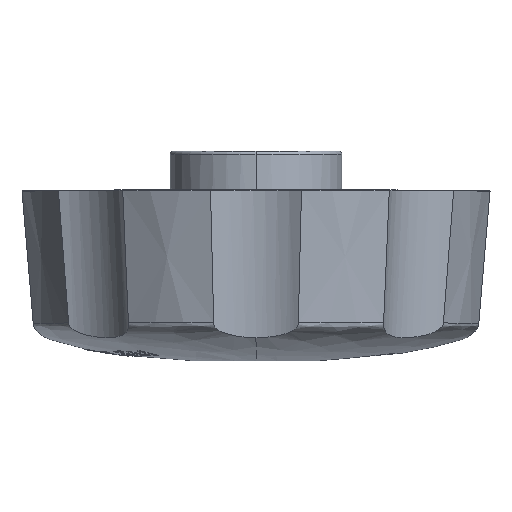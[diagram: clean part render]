
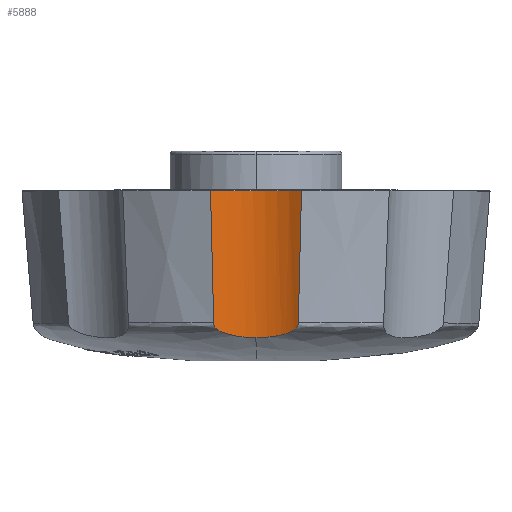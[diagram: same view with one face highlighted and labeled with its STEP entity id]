
A CAD part, top view. The second image highlights one B-rep face of the part: STEP entity #5888.
In plain terms, the highlighted cylindrical face has radius 10.5 mm (diameter 21 mm), a partial arc.
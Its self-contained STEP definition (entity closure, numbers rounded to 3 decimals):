
#284 = CARTESIAN_POINT ( 'NONE',  ( -4.94, 4.144, 28.161 ) ) ;
#360 = CARTESIAN_POINT ( 'NONE',  ( -5.553, 10.63, 28.969 ) ) ;
#443 = CARTESIAN_POINT ( 'NONE',  ( 5.392, 4.731, 28.46 ) ) ;
#545 = CARTESIAN_POINT ( 'NONE',  ( 2.097, 3.243, 27.071 ) ) ;
#645 = EDGE_CURVE ( 'NONE', #4569, #18743, #12143, .T. ) ;
#1054 = CARTESIAN_POINT ( 'NONE',  ( -5.819, 21.894, 29.93 ) ) ;
#1307 = EDGE_CURVE ( 'NONE', #2276, #8453, #12419, .T. ) ;
#1903 = CARTESIAN_POINT ( 'NONE',  ( -4.074, 3.704, 27.715 ) ) ;
#2144 = CARTESIAN_POINT ( 'NONE',  ( 0., -4.708, 36.832 ) ) ;
#2176 = CARTESIAN_POINT ( 'NONE',  ( 3.358, 3.481, 27.428 ) ) ;
#2276 = VERTEX_POINT ( 'NONE', #15301 ) ;
#2688 = CARTESIAN_POINT ( 'NONE',  ( 5.819, 21.894, 29.93 ) ) ;
#3521 = CARTESIAN_POINT ( 'NONE',  ( -2.612, 3.312, 27.184 ) ) ;
#3784 = CARTESIAN_POINT ( 'NONE',  ( 4.298, 3.792, 27.82 ) ) ;
#4370 = CARTESIAN_POINT ( 'NONE',  ( -5.819, 21.892, 29.93 ) ) ;
#4569 = VERTEX_POINT ( 'NONE', #16564 ) ;
#5126 = CARTESIAN_POINT ( 'NONE',  ( -1.062, 3.143, 26.906 ) ) ;
#5231 = CARTESIAN_POINT ( 'NONE',  ( -5.424, 4.865, 28.488 ) ) ;
#5395 = CARTESIAN_POINT ( 'NONE',  ( 4.929, 4.154, 28.157 ) ) ;
#5489 = CARTESIAN_POINT ( 'NONE',  ( -5.819, 21.891, 29.93 ) ) ;
#5493 = CARTESIAN_POINT ( 'NONE',  ( 0., 3.112, 26.853 ) ) ;
#5782 = EDGE_CURVE ( 'NONE', #16819, #10584, #17213, .T. ) ;
#5888 = ADVANCED_FACE ( 'NONE', ( #10324 ), #16913, .F. ) ;
#6108 = CARTESIAN_POINT ( 'NONE',  ( 5.819, 21.892, 29.93 ) ) ;
#6461 = ORIENTED_EDGE ( 'NONE', *, *, #13296, .F. ) ;
#6465 = CARTESIAN_POINT ( 'NONE',  ( 5.412, 5., 28.491 ) ) ;
#6746 = CARTESIAN_POINT ( 'NONE',  ( 0., 3.112, 26.853 ) ) ;
#6807 = ORIENTED_EDGE ( 'NONE', *, *, #19605, .F. ) ;
#6850 = CARTESIAN_POINT ( 'NONE',  ( -5.201, 4.405, 28.325 ) ) ;
#6928 = CARTESIAN_POINT ( 'NONE',  ( -5.688, 16.261, 29.449 ) ) ;
#7012 = CARTESIAN_POINT ( 'NONE',  ( 5.278, 4.501, 28.376 ) ) ;
#7113 = CARTESIAN_POINT ( 'NONE',  ( 1.839, 3.211, 27.019 ) ) ;
#7423 = AXIS2_PLACEMENT_3D ( 'NONE', #2144, #8720, #15300 ) ;
#8106 = CARTESIAN_POINT ( 'NONE',  ( 5.819, 21.891, 29.93 ) ) ;
#8453 = VERTEX_POINT ( 'NONE', #13997 ) ;
#8490 = CARTESIAN_POINT ( 'NONE',  ( -4.302, 3.794, 27.821 ) ) ;
#8637 = CARTESIAN_POINT ( 'NONE',  ( 5.412, 5., 28.491 ) ) ;
#8720 = DIRECTION ( 'NONE',  ( 0., 0.998, 0.07 ) ) ;
#8751 = CARTESIAN_POINT ( 'NONE',  ( 2.864, 3.369, 27.267 ) ) ;
#8891 = B_SPLINE_CURVE_WITH_KNOTS ( 'NONE', 3,
 ( #8637, #15209, #443, #7012, #13589, #20177, #5395, #11971, #18558, #3784, #10347, #16937, #2176, #8751, #15320, #545, #7113, #13696, #20282, #5493 ),
 .UNSPECIFIED., .F., .F.,
 ( 4, 2, 2, 2, 2, 2, 2, 2, 2, 4 ),
 ( 0., 0., 0.001, 0.001, 0.002, 0.002, 0.003, 0.004, 0.005, 0.006 ),
 .UNSPECIFIED. ) ;
#9264 = CARTESIAN_POINT ( 'NONE',  ( 2.184, 21.893, 27.504 ) ) ;
#9800 = B_SPLINE_CURVE_WITH_KNOTS ( 'NONE', 3,
 ( #15133, #360, #6928, #13513 ),
 .UNSPECIFIED., .F., .F.,
 ( 4, 4 ),
 ( 0., 0.017 ),
 .UNSPECIFIED. ) ;
#10089 = CARTESIAN_POINT ( 'NONE',  ( -3.358, 3.481, 27.428 ) ) ;
#10245 = CARTESIAN_POINT ( 'NONE',  ( -5.412, 5., 28.491 ) ) ;
#10324 = FACE_OUTER_BOUND ( 'NONE', #15246, .T. ) ;
#10347 = CARTESIAN_POINT ( 'NONE',  ( 4.069, 3.702, 27.713 ) ) ;
#10584 = VERTEX_POINT ( 'NONE', #18547 ) ;
#10945 = CARTESIAN_POINT ( 'NONE',  ( -5.819, 21.891, 29.93 ) ) ;
#11008 = B_SPLINE_CURVE_WITH_KNOTS ( 'NONE', 3,
 ( #12551, #19144, #4370, #10945 ),
 .UNSPECIFIED., .F., .F.,
 ( 4, 4 ),
 ( 0., 0. ),
 .UNSPECIFIED. ) ;
#11561 = VERTEX_POINT ( 'NONE', #5489 ) ;
#11711 = CARTESIAN_POINT ( 'NONE',  ( -1.324, 3.161, 26.937 ) ) ;
#11813 = CARTESIAN_POINT ( 'NONE',  ( -5.412, 5., 28.491 ) ) ;
#11971 = CARTESIAN_POINT ( 'NONE',  ( 4.729, 4.019, 28.043 ) ) ;
#12143 = B_SPLINE_CURVE_WITH_KNOTS ( 'NONE', 3,
 ( #6746, #13328, #19914, #5126, #11711, #18296, #3521, #10089, #16683, #1903, #8490, #15058, #284, #6850, #13427, #20019, #5231, #11813 ),
 .UNSPECIFIED., .F., .F.,
 ( 4, 2, 2, 2, 2, 2, 2, 2, 4 ),
 ( 0.006, 0.007, 0.008, 0.01, 0.01, 0.011, 0.012, 0.012, 0.013 ),
 .UNSPECIFIED. ) ;
#12419 =( BOUNDED_CURVE ( )  B_SPLINE_CURVE ( 3, ( #2688, #9264, #15835, #1054 ),
 .UNSPECIFIED., .F., .F. ) 
 B_SPLINE_CURVE_WITH_KNOTS ( ( 4, 4 ),
 ( 2.554, 3.729 ),
 .UNSPECIFIED. ) 
 CURVE ( )  GEOMETRIC_REPRESENTATION_ITEM ( )  RATIONAL_B_SPLINE_CURVE ( ( 1., 0.888, 0.888, 1. ) ) 
 REPRESENTATION_ITEM ( '' )  );
#12551 = CARTESIAN_POINT ( 'NONE',  ( -5.819, 21.894, 29.93 ) ) ;
#12683 = CARTESIAN_POINT ( 'NONE',  ( 5.819, 21.893, 29.93 ) ) ;
#13296 = EDGE_CURVE ( 'NONE', #18743, #11561, #9800, .T. ) ;
#13328 = CARTESIAN_POINT ( 'NONE',  ( -0.267, 3.112, 26.853 ) ) ;
#13427 = CARTESIAN_POINT ( 'NONE',  ( -5.279, 4.501, 28.376 ) ) ;
#13513 = CARTESIAN_POINT ( 'NONE',  ( -5.819, 21.891, 29.93 ) ) ;
#13589 = CARTESIAN_POINT ( 'NONE',  ( 5.2, 4.403, 28.324 ) ) ;
#13597 = CARTESIAN_POINT ( 'NONE',  ( 5.819, 21.891, 29.93 ) ) ;
#13696 = CARTESIAN_POINT ( 'NONE',  ( 1.06, 3.136, 26.895 ) ) ;
#13997 = CARTESIAN_POINT ( 'NONE',  ( -5.819, 21.894, 29.93 ) ) ;
#14677 = CARTESIAN_POINT ( 'NONE',  ( 5.688, 16.261, 29.449 ) ) ;
#14966 = ORIENTED_EDGE ( 'NONE', *, *, #18074, .T. ) ;
#15058 = CARTESIAN_POINT ( 'NONE',  ( -4.733, 4.015, 28.043 ) ) ;
#15133 = CARTESIAN_POINT ( 'NONE',  ( -5.412, 5., 28.491 ) ) ;
#15163 = ORIENTED_EDGE ( 'NONE', *, *, #5782, .F. ) ;
#15209 = CARTESIAN_POINT ( 'NONE',  ( 5.424, 4.864, 28.488 ) ) ;
#15246 = EDGE_LOOP ( 'NONE', ( #15163, #14966, #16975, #16603, #6461, #18524, #6807 ) ) ;
#15300 = DIRECTION ( 'NONE',  ( 0., -0.07, 0.998 ) ) ;
#15301 = CARTESIAN_POINT ( 'NONE',  ( 5.819, 21.894, 29.93 ) ) ;
#15320 = CARTESIAN_POINT ( 'NONE',  ( 2.61, 3.322, 27.194 ) ) ;
#15433 = EDGE_CURVE ( 'NONE', #8453, #11561, #11008, .T. ) ;
#15835 = CARTESIAN_POINT ( 'NONE',  ( -2.184, 21.893, 27.504 ) ) ;
#16564 = CARTESIAN_POINT ( 'NONE',  ( 0., 3.112, 26.853 ) ) ;
#16603 = ORIENTED_EDGE ( 'NONE', *, *, #15433, .T. ) ;
#16683 = CARTESIAN_POINT ( 'NONE',  ( -3.601, 3.547, 27.518 ) ) ;
#16819 = VERTEX_POINT ( 'NONE', #13597 ) ;
#16913 = CYLINDRICAL_SURFACE ( 'NONE', #7423, 10.5 ) ;
#16937 = CARTESIAN_POINT ( 'NONE',  ( 3.6, 3.546, 27.518 ) ) ;
#16975 = ORIENTED_EDGE ( 'NONE', *, *, #1307, .T. ) ;
#17213 = B_SPLINE_CURVE_WITH_KNOTS ( 'NONE', 3,
 ( #8106, #14677, #21265, #6465 ),
 .UNSPECIFIED., .F., .F.,
 ( 4, 4 ),
 ( 0., 0.017 ),
 .UNSPECIFIED. ) ;
#17938 = B_SPLINE_CURVE_WITH_KNOTS ( 'NONE', 3,
 ( #20897, #6108, #12683, #19266 ),
 .UNSPECIFIED., .F., .F.,
 ( 4, 4 ),
 ( 0., 0. ),
 .UNSPECIFIED. ) ;
#18074 = EDGE_CURVE ( 'NONE', #16819, #2276, #17938, .T. ) ;
#18296 = CARTESIAN_POINT ( 'NONE',  ( -2.102, 3.236, 27.061 ) ) ;
#18524 = ORIENTED_EDGE ( 'NONE', *, *, #645, .F. ) ;
#18547 = CARTESIAN_POINT ( 'NONE',  ( 5.412, 5., 28.491 ) ) ;
#18558 = CARTESIAN_POINT ( 'NONE',  ( 4.624, 3.959, 27.987 ) ) ;
#18743 = VERTEX_POINT ( 'NONE', #10245 ) ;
#19144 = CARTESIAN_POINT ( 'NONE',  ( -5.819, 21.893, 29.93 ) ) ;
#19266 = CARTESIAN_POINT ( 'NONE',  ( 5.819, 21.894, 29.93 ) ) ;
#19605 = EDGE_CURVE ( 'NONE', #10584, #4569, #8891, .T. ) ;
#19914 = CARTESIAN_POINT ( 'NONE',  ( -0.534, 3.118, 26.864 ) ) ;
#20019 = CARTESIAN_POINT ( 'NONE',  ( -5.392, 4.732, 28.46 ) ) ;
#20177 = CARTESIAN_POINT ( 'NONE',  ( 5.025, 4.229, 28.214 ) ) ;
#20282 = CARTESIAN_POINT ( 'NONE',  ( 0.533, 3.112, 26.853 ) ) ;
#20897 = CARTESIAN_POINT ( 'NONE',  ( 5.819, 21.891, 29.93 ) ) ;
#21265 = CARTESIAN_POINT ( 'NONE',  ( 5.553, 10.63, 28.969 ) ) ;
